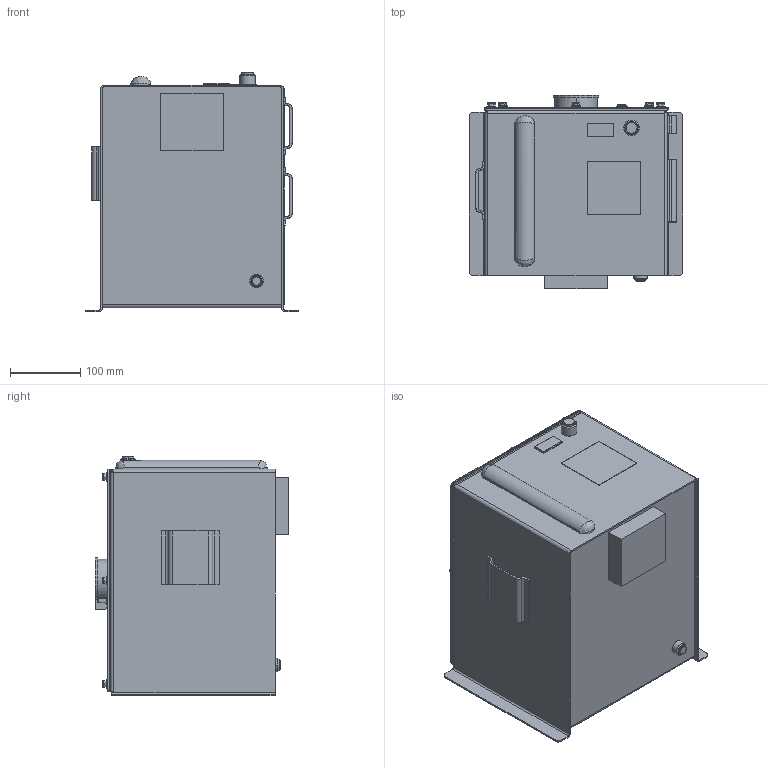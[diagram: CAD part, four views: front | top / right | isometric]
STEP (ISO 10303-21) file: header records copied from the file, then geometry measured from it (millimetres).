
FILE_DESCRIPTION((''),'2;1');
FILE_NAME('563320-EN-F_PRT','2019-12-31T21:56:49',('qusrh3'),(''),'CREO PARAMETRIC BY PTC INC, 2019030','CREO PARAMETRIC BY PTC INC, 2019030','');
FILE_SCHEMA(('CONFIG_CONTROL_DESIGN'));
Length unit declared in the file: inch
Products named in the file (1): 563320-EN-F_PRT
Bounding box: 304.8 x 276.29 x 341.38 mm (x, y, z)
Surface area: 1195778.1 mm2 (no closed solid volume)
Topology: 0 solids, 86 shells, 708 faces, 1766 edges, 1121 vertices
Faces by surface type: plane 358, cylinder 235, cone 54, torus 45, bspline 16
Entity records: 26523 total; most frequent: CARTESIAN_POINT 10333, DIRECTION 3364, ORIENTED_EDGE 3091, EDGE_CURVE 1766, AXIS2_PLACEMENT_3D 1200, VERTEX_POINT 1121, VECTOR 964, LINE 964
